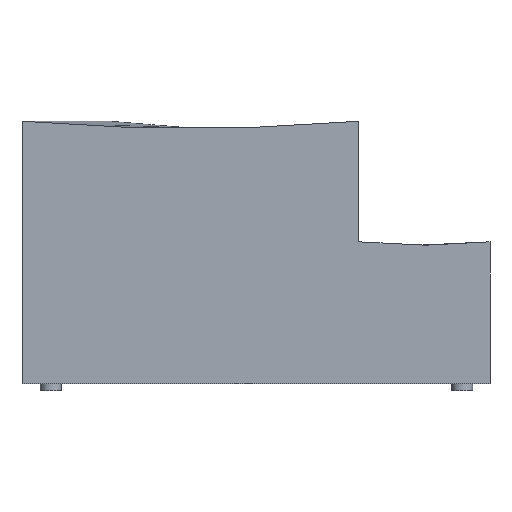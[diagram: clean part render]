
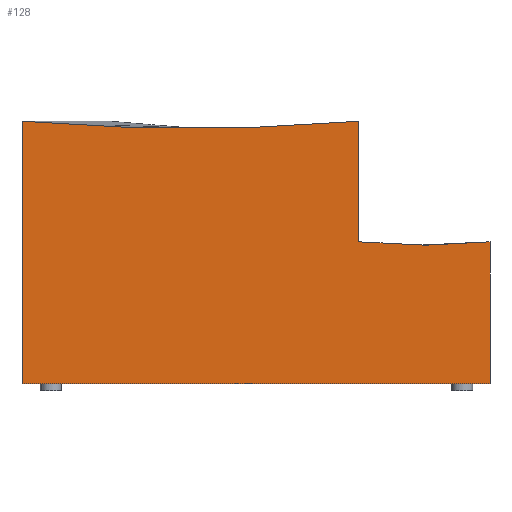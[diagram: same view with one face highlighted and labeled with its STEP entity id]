
A CAD part, left-side view. The second image highlights one B-rep face of the part: STEP entity #128.
In plain terms, the highlighted planar face has unit normal (-1, 0, 0).
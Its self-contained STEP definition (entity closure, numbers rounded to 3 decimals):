
#18=B_SPLINE_CURVE_WITH_KNOTS('',2,(#1160,#1161,#1162),.UNSPECIFIED.,.F.,
 .F.,(3,3),(700.,1070.),.UNSPECIFIED.);
#22=B_SPLINE_CURVE_WITH_KNOTS('',1,(#1170,#1171),.UNSPECIFIED.,.F.,.F.,
(2,2),(-340.,0.),.UNSPECIFIED.);
#31=B_SPLINE_CURVE_WITH_KNOTS('',2,(#1191,#1192,#1193),.UNSPECIFIED.,.F.,
 .F.,(3,3),(-950.,0.),.UNSPECIFIED.);
#32=B_SPLINE_CURVE_WITH_KNOTS('',1,(#1194,#1195),.UNSPECIFIED.,.F.,.F.,
(2,2),(0.,400.),.UNSPECIFIED.);
#35=B_SPLINE_CURVE_WITH_KNOTS('',1,(#1200,#1201),.UNSPECIFIED.,.F.,.F.,
(2,2),(0.,740.),.UNSPECIFIED.);
#39=B_SPLINE_CURVE_WITH_KNOTS('',1,(#1208,#1209),.UNSPECIFIED.,.F.,.F.,
(2,2),(-1320.,0.),.UNSPECIFIED.);
#128=ADVANCED_FACE('',(#186),#723,.T.);
#186=FACE_OUTER_BOUND('',#244,.T.);
#244=EDGE_LOOP('',(#374,#375,#376,#377,#378,#379));
#374=ORIENTED_EDGE('',*,*,#538,.T.);
#375=ORIENTED_EDGE('',*,*,#531,.T.);
#376=ORIENTED_EDGE('',*,*,#517,.F.);
#377=ORIENTED_EDGE('',*,*,#521,.F.);
#378=ORIENTED_EDGE('',*,*,#530,.T.);
#379=ORIENTED_EDGE('',*,*,#534,.F.);
#517=EDGE_CURVE('',#662,#663,#18,.T.);
#521=EDGE_CURVE('',#665,#662,#22,.T.);
#530=EDGE_CURVE('',#665,#668,#31,.T.);
#531=EDGE_CURVE('',#671,#663,#32,.T.);
#534=EDGE_CURVE('',#673,#668,#35,.T.);
#538=EDGE_CURVE('',#673,#671,#39,.T.);
#662=VERTEX_POINT('',#1127);
#663=VERTEX_POINT('',#1128);
#665=VERTEX_POINT('',#1130);
#668=VERTEX_POINT('',#1133);
#671=VERTEX_POINT('',#1136);
#673=VERTEX_POINT('',#1138);
#723=PLANE('',#867);
#867=AXIS2_PLACEMENT_3D('',#1120,#918,$);
#918=DIRECTION('',(-1.,0.,0.));
#1120=CARTESIAN_POINT('',(-3686.026,318.276,12.6));
#1127=CARTESIAN_POINT('',(-3686.026,701.476,420.));
#1128=CARTESIAN_POINT('',(-3686.026,331.476,420.));
#1130=CARTESIAN_POINT('',(-3686.026,701.476,760.));
#1133=CARTESIAN_POINT('',(-3686.026,1651.476,760.));
#1136=CARTESIAN_POINT('',(-3686.026,331.476,20.));
#1138=CARTESIAN_POINT('',(-3686.026,1651.476,20.));
#1160=CARTESIAN_POINT('',(-3686.026,701.476,420.));
#1161=CARTESIAN_POINT('',(-3686.026,510.99,401.003));
#1162=CARTESIAN_POINT('',(-3686.026,331.476,420.));
#1170=CARTESIAN_POINT('',(-3686.026,701.476,760.));
#1171=CARTESIAN_POINT('',(-3686.026,701.476,420.));
#1191=CARTESIAN_POINT('',(-3686.026,701.476,760.));
#1192=CARTESIAN_POINT('',(-3686.026,1176.476,718.636));
#1193=CARTESIAN_POINT('',(-3686.026,1651.476,760.));
#1194=CARTESIAN_POINT('',(-3686.026,331.476,20.));
#1195=CARTESIAN_POINT('',(-3686.026,331.476,420.));
#1200=CARTESIAN_POINT('',(-3686.026,1651.476,20.));
#1201=CARTESIAN_POINT('',(-3686.026,1651.476,760.));
#1208=CARTESIAN_POINT('',(-3686.026,1651.476,20.));
#1209=CARTESIAN_POINT('',(-3686.026,331.476,20.));
